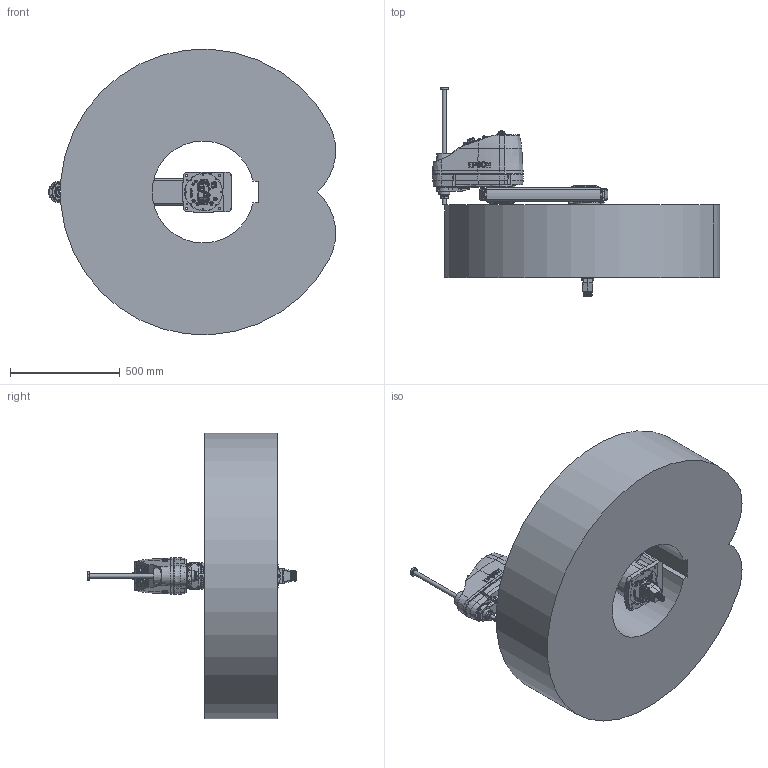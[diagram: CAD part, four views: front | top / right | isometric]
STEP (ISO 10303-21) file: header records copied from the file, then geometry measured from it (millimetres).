
FILE_DESCRIPTION( ( 'STEP AP214' ), '1' );
FILE_NAME( 'C:/Users/9607552/Desktop/GX8-B653SB_straight.stp', '2023-07-07T02:55:37', ( '' ), ( '' ), ' ', 'PARTsolutions', ' ' );
FILE_SCHEMA( ( 'AUTOMOTIVE_DESIGN { 1 0 10303 214 1 1 1 1 }' ) );
Length unit declared in the file: millimetre
Products named in the file (9): GX8-B653SB-SW; _B452SBbasegx8; _B652Sj1arm; _GX8-B653SBj1arm2; _GX8-B653SBj1arm1; _B452S_J2; _B453SZA; _Straight-B; _GX8-25-1-B_WS
Assembly tree (10 placements, depth 2):
  GX8-B653SB-SW
    _B452SBbasegx8
    _B652Sj1arm
    _GX8-B653SBj1arm2  x2
    _GX8-B653SBj1arm1  x2
    _B452S_J2
    _B453SZA
    _Straight-B
    _GX8-25-1-B_WS
Bounding box: 1308.1 x 951.85 x 1298.02 mm (x, y, z)
Volume: 396483650.4 mm3; surface area: 5259760 mm2
Topology: 10 solids, 11 shells, 2953 faces, 7258 edges, 4739 vertices
Faces by surface type: plane 1469, cylinder 934, cone 386, torus 121, bspline 37, sphere 6
Full cylindrical faces by diameter (mm): 1 x48, 1.18 x55, 2.459 x12, 3 x32, 3.242 x20, 3.3 x5, 3.9 x4, 4 x4, 4.2 x6, 4.5 x4, 4.8 x5, 4.917 x2, 5.34 x4, 5.5 x17, 6 x1, 6.2 x2, 6.647 x4, 6.8 x2, 7 x48, 8 x5, 8.5 x6, 9 x24, 10 x18, 11 x4, 11.2 x7, 11.5 x1, 12 x5, 12.25 x1, 13 x3, 13.2 x12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
Entity records: 105928 total; most frequent: CARTESIAN_POINT 20582, DIRECTION 12926, ORIENTED_EDGE 12084, EDGE_CURVE 6042, AXIS2_PLACEMENT_3D 5010, VERTEX_POINT 4338, EDGE_LOOP 3881, FACE_OUTER_BOUND 3242
